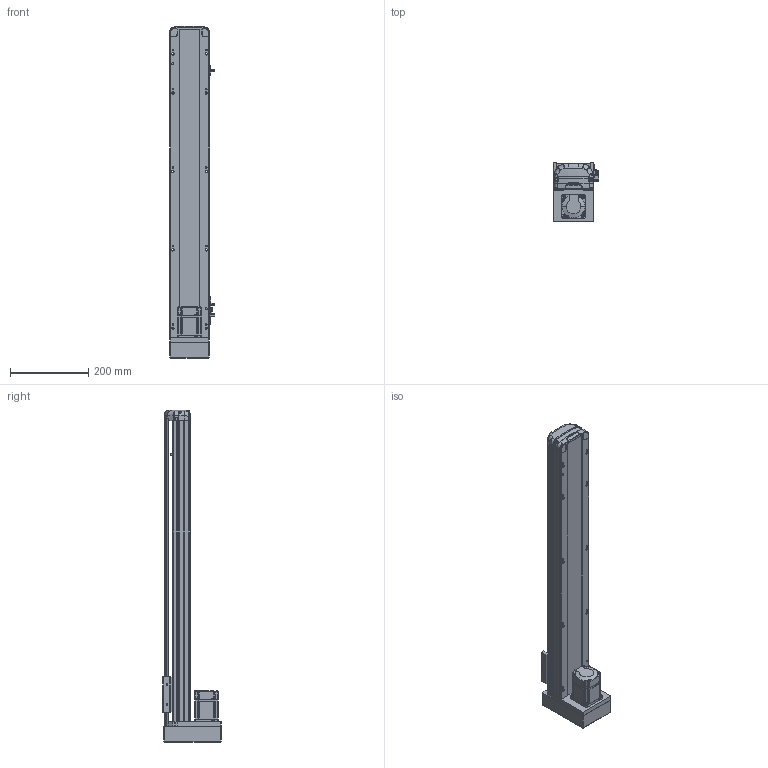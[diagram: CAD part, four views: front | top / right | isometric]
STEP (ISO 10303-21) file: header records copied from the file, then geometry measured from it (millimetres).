
FILE_DESCRIPTION (( 'STEP AP214' ), '1' );
FILE_NAME ('RTH10-XX-600-M-M20-C4.STEP', '2025-10-25T04:50:33', ( 'Microsoft' ), ( 'Microsoft' ), 'SwSTEP 2.0', 'SolidWorks 2018', '' );
FILE_SCHEMA (( 'AUTOMOTIVE_DESIGN' ));
Length unit declared in the file: millimetre
Products named in the file (10): N_RTH12-M-018-裔赽^RTH10-XX-XX-M-M20-C4; N_RTH12-GY-004-賑釱^RTH10-XX-XX-M-M20-C4; N_200W-1^RTH10-XX-XX-M-M20-C4; N_RTH12-M-007P-奻裔^RTH10-XX-XX-M-M20-C4; N_RTH12-M-011P-臏倰第菁釱^RTH10-XX-XX-M-M20-C4; N_RTH12-GY-001P^RTH10-XX-XX-M-M20-C4; N_OMRON EE-SX672 传感器^RTH10-XX-XX-M-M20-C4; RTH10-XX-600-M-M20-C4; N_RTH12-M-008-萇儂啣^RTH10-XX-XX-M-M20-C4; N_RTH13-L-012覜茼え俋离^RTH10-XX-XX-M-M20-C4
Assembly tree (11 placements, depth 2):
  RTH10-XX-600-M-M20-C4
    N_RTH12-M-011P-臏倰第菁釱^RTH10-XX-XX-M-M20-C4
    N_RTH13-L-012覜茼え俋离^RTH10-XX-XX-M-M20-C4
    N_OMRON EE-SX672 传感器^RTH10-XX-XX-M-M20-C4  x3
    N_200W-1^RTH10-XX-XX-M-M20-C4
    N_RTH12-M-007P-奻裔^RTH10-XX-XX-M-M20-C4
    N_RTH12-M-008-萇儂啣^RTH10-XX-XX-M-M20-C4
    N_RTH12-M-018-裔赽^RTH10-XX-XX-M-M20-C4
    N_RTH12-GY-004-賑釱^RTH10-XX-XX-M-M20-C4
    N_RTH12-GY-001P^RTH10-XX-XX-M-M20-C4
Bounding box: 116.5 x 149 x 847.14 mm (x, y, z)
Volume: 4075173.7 mm3; surface area: 607099.6 mm2
Topology: 10 solids, 12 shells, 1989 faces, 5548 edges, 3643 vertices
Faces by surface type: plane 991, cylinder 491, bspline 472, cone 29, sphere 4, torus 2
Entity records: 59938 total; most frequent: CARTESIAN_POINT 23443, ORIENTED_EDGE 8168, DIRECTION 6338, EDGE_CURVE 4090, VERTEX_POINT 2687, LINE 2198, VECTOR 2198, AXIS2_PLACEMENT_3D 2070
